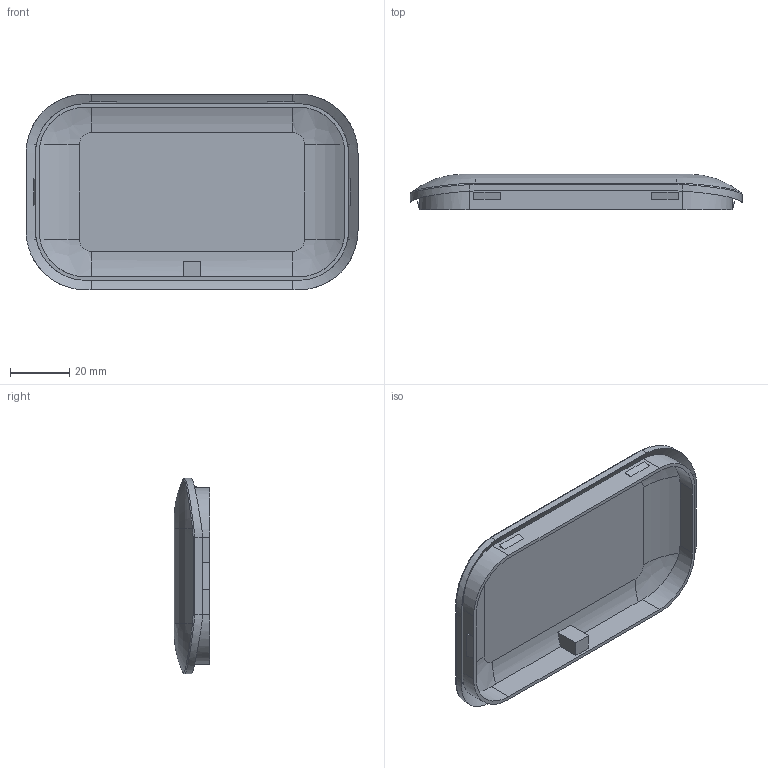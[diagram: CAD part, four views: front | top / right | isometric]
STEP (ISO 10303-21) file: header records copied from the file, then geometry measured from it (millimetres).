
FILE_DESCRIPTION(('Open CASCADE Model'),'2;1');
FILE_NAME('Open CASCADE Shape Model','2026-11-01T16:32:25',('Author'),( 'Open CASCADE'),'Open CASCADE STEP processor 8.0','build123d', 'Unknown');
FILE_SCHEMA(('AUTOMOTIVE_DESIGN { 1 0 10303 214 1 1 1 1 }'));
Products named in the file (1): SOLID
Bounding box: 112 x 12 x 66 mm (x, y, z)
Volume: 18976.3 mm3; surface area: 19902.6 mm2
Topology: 1 solids, 2 shells, 90 faces, 227 edges, 146 vertices
Faces by surface type: plane 41, cylinder 25, bspline 20, revolution 4
Full cylindrical faces by diameter (mm): 1.6 x1
Entity records: 111822 total; most frequent: CARTESIAN_POINT 107783, DIRECTION 567, ORIENTED_EDGE 454, PCURVE 454, DEFINITIONAL_REPRESENTATION 454, LINE 338, VECTOR 338, B_SPLINE_CURVE_WITH_KNOTS 283
